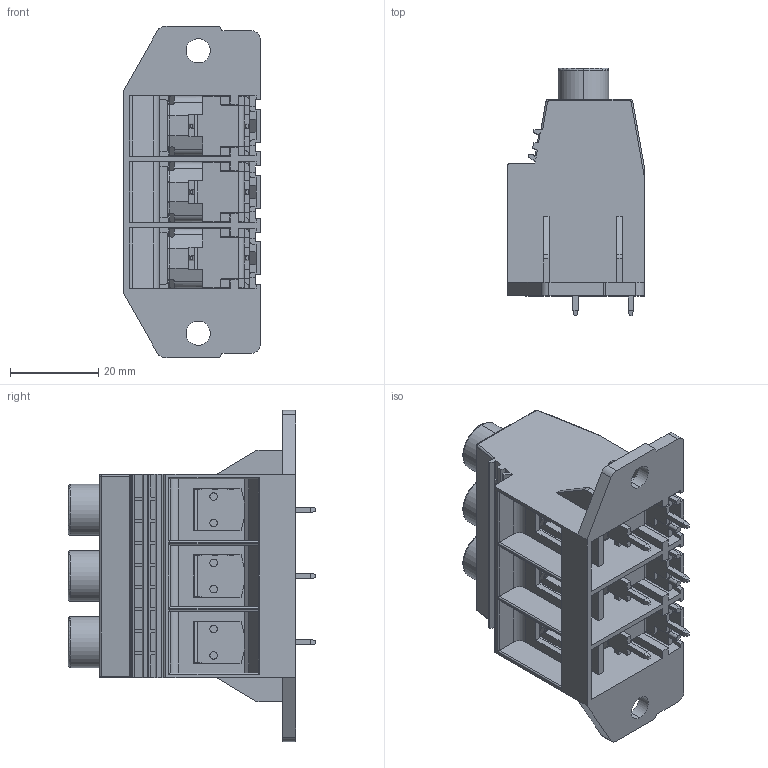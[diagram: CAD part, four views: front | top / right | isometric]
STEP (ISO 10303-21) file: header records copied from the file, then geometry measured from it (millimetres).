
FILE_DESCRIPTION((''),'2;1');
FILE_NAME('PRT0001','2021-05-11T',('guoxue_sz'),(''),'CREO PARAMETRIC BY PTC INC, 2016260','CREO PARAMETRIC BY PTC INC, 2016260','');
FILE_SCHEMA(('CONFIG_CONTROL_DESIGN'));
Products named in the file (1): PRT0001
Bounding box: 31 x 56 x 75 mm (x, y, z)
Volume: 27554.9 mm3; surface area: 38533.7 mm2
Topology: 1 solids, 1 shells, 2164 faces, 5505 edges, 3358 vertices
Faces by surface type: plane 1681, cylinder 371, bspline 60, cone 27, torus 25
Entity records: 84053 total; most frequent: CARTESIAN_POINT 32911, ORIENTED_EDGE 11010, DIRECTION 9823, EDGE_CURVE 5505, VECTOR 4465, LINE 4465, VERTEX_POINT 3358, AXIS2_PLACEMENT_3D 2679
